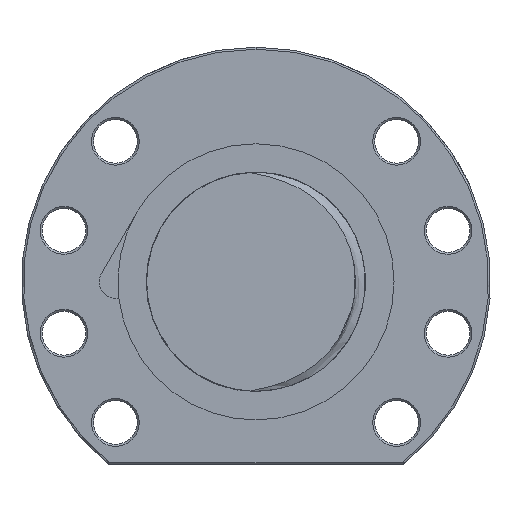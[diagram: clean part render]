
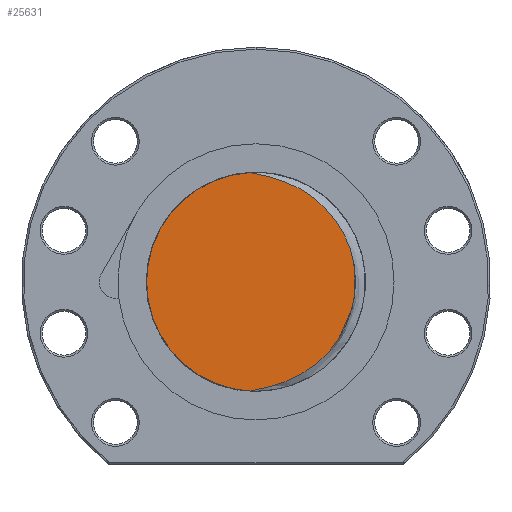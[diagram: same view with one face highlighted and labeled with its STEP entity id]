
A CAD part, left-side view. The second image highlights one B-rep face of the part: STEP entity #25631.
In plain terms, the highlighted planar face has unit normal (-1, 0, 0).
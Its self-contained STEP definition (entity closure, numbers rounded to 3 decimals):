
#5062 = DIRECTION ( 'NONE',  ( 0., 1., 0. ) ) ;
#5063 = DIRECTION ( 'NONE',  ( 1., 0., 0. ) ) ;
#5064 = CARTESIAN_POINT ( 'NONE',  ( -234., 0., 0. ) ) ;
#5065 = AXIS2_PLACEMENT_3D ( 'NONE', #5064, #5063, #5062 ) ;
#5066 = CIRCLE ( 'NONE', #5065, 27.5 ) ;
#5121 = CARTESIAN_POINT ( 'NONE',  ( -234., 1.501, -27.459 ) ) ;
#5133 = CARTESIAN_POINT ( 'NONE',  ( -234., 1.501, 27.459 ) ) ;
#24318 = VERTEX_POINT ( 'NONE', #5133 ) ;
#24331 = VERTEX_POINT ( 'NONE', #5121 ) ;
#24335 = EDGE_CURVE ( 'NONE', #24331, #24318, #5066, .T. ) ;
#25631 = ADVANCED_FACE ( 'NONE', ( #43360 ), #43355, .F. ) ;
#25633 = ORIENTED_EDGE ( 'NONE', *, *, #24335, .F. ) ;
#25635 = ORIENTED_EDGE ( 'NONE', *, *, #25637, .T. ) ;
#25637 = EDGE_CURVE ( 'NONE', #24331, #24318, #43348, .T. ) ;
#25688 = EDGE_LOOP ( 'NONE', ( #25633, #25635 ) ) ;
#43344 = CARTESIAN_POINT ( 'NONE',  ( -234., -0.212, -27.098 ) ) ;
#43345 = CARTESIAN_POINT ( 'NONE',  ( -234., 0.647, -27.269 ) ) ;
#43346 = CARTESIAN_POINT ( 'NONE',  ( -234., 1.077, -27.354 ) ) ;
#43347 = CARTESIAN_POINT ( 'NONE',  ( -234., 1.501, -27.459 ) ) ;
#43348 = B_SPLINE_CURVE_WITH_KNOTS ( 'NONE', 3,
 ( #43347, #43346, #43345, #43344, #43421, #43420, #43419, #43418, #43417, #43416, #43415, #43414, #43413, #43412, #43411, #43410, #43409, #43408, #43407, #43406, #43405, #43404, #43403, #43402, #43401, #43400, #43399, #43398, #43397, #43396, #43395, #43394, #43393, #43392, #43391, #43390, #43389, #43388, #43387, #43386, #43385, #43384, #43383, #43382, #43381, #43380, #43379, #43378, #43377, #43376, #43375, #43374, #43373, #43372, #43458, #43457, #43456, #43455, #43454, #43453, #43452, #43451 ),
 .UNSPECIFIED., .F., .F.,
 ( 4, 2, 2, 2, 2, 2, 2, 2, 2, 2, 2, 2, 2, 2, 2, 2, 2, 2, 2, 2, 2, 2, 2, 2, 2, 2, 2, 2, 2, 2, 4 ),
 ( 0.001, 0.002, 0.004, 0.006, 0.009, 0.012, 0.014, 0.017, 0.022, 0.025, 0.027, 0.03, 0.031, 0.032, 0.038, 0.04, 0.042, 0.043, 0.048, 0.051, 0.053, 0.059, 0.064, 0.066, 0.069, 0.072, 0.074, 0.079, 0.082, 0.083, 0.085 ),
 .UNSPECIFIED. ) ;
#43351 = DIRECTION ( 'NONE',  ( 0., 0., -1. ) ) ;
#43352 = DIRECTION ( 'NONE',  ( 1., 0., 0. ) ) ;
#43353 = CARTESIAN_POINT ( 'NONE',  ( -234., 0., 0. ) ) ;
#43354 = AXIS2_PLACEMENT_3D ( 'NONE', #43353, #43352, #43351 ) ;
#43355 = PLANE ( 'NONE',  #43354 ) ;
#43360 = FACE_OUTER_BOUND ( 'NONE', #25688, .T. ) ;
#43372 = CARTESIAN_POINT ( 'NONE',  ( -234., -6.983, 25.321 ) ) ;
#43373 = CARTESIAN_POINT ( 'NONE',  ( -234., -9.383, 24.261 ) ) ;
#43374 = CARTESIAN_POINT ( 'NONE',  ( -234., -10.172, 23.871 ) ) ;
#43375 = CARTESIAN_POINT ( 'NONE',  ( -234., -11.703, 23.026 ) ) ;
#43376 = CARTESIAN_POINT ( 'NONE',  ( -234., -12.447, 22.569 ) ) ;
#43377 = CARTESIAN_POINT ( 'NONE',  ( -234., -13.894, 21.587 ) ) ;
#43378 = CARTESIAN_POINT ( 'NONE',  ( -234., -14.598, 21.059 ) ) ;
#43379 = CARTESIAN_POINT ( 'NONE',  ( -234., -15.944, 19.948 ) ) ;
#43380 = CARTESIAN_POINT ( 'NONE',  ( -234., -16.587, 19.364 ) ) ;
#43381 = CARTESIAN_POINT ( 'NONE',  ( -234., -18.426, 17.527 ) ) ;
#43382 = CARTESIAN_POINT ( 'NONE',  ( -234., -19.532, 16.189 ) ) ;
#43383 = CARTESIAN_POINT ( 'NONE',  ( -234., -21.493, 13.275 ) ) ;
#43384 = CARTESIAN_POINT ( 'NONE',  ( -234., -22.316, 11.747 ) ) ;
#43385 = CARTESIAN_POINT ( 'NONE',  ( -234., -23.319, 9.349 ) ) ;
#43386 = CARTESIAN_POINT ( 'NONE',  ( -234., -23.614, 8.532 ) ) ;
#43387 = CARTESIAN_POINT ( 'NONE',  ( -234., -24.126, 6.863 ) ) ;
#43388 = CARTESIAN_POINT ( 'NONE',  ( -234., -24.342, 6.008 ) ) ;
#43389 = CARTESIAN_POINT ( 'NONE',  ( -234., -24.856, 3.447 ) ) ;
#43390 = CARTESIAN_POINT ( 'NONE',  ( -234., -25.026, 1.724 ) ) ;
#43391 = CARTESIAN_POINT ( 'NONE',  ( -234., -25.024, -0.449 ) ) ;
#43392 = CARTESIAN_POINT ( 'NONE',  ( -234., -25.013, -0.884 ) ) ;
#43393 = CARTESIAN_POINT ( 'NONE',  ( -234., -24.969, -1.757 ) ) ;
#43394 = CARTESIAN_POINT ( 'NONE',  ( -234., -24.936, -2.196 ) ) ;
#43395 = CARTESIAN_POINT ( 'NONE',  ( -234., -24.804, -3.502 ) ) ;
#43396 = CARTESIAN_POINT ( 'NONE',  ( -234., -24.674, -4.362 ) ) ;
#43397 = CARTESIAN_POINT ( 'NONE',  ( -234., -24.158, -6.91 ) ) ;
#43398 = CARTESIAN_POINT ( 'NONE',  ( -234., -23.648, -8.565 ) ) ;
#43399 = CARTESIAN_POINT ( 'NONE',  ( -234., -22.802, -10.581 ) ) ;
#43400 = CARTESIAN_POINT ( 'NONE',  ( -234., -22.622, -10.982 ) ) ;
#43401 = CARTESIAN_POINT ( 'NONE',  ( -234., -22.244, -11.771 ) ) ;
#43402 = CARTESIAN_POINT ( 'NONE',  ( -234., -22.046, -12.159 ) ) ;
#43403 = CARTESIAN_POINT ( 'NONE',  ( -234., -21.426, -13.306 ) ) ;
#43404 = CARTESIAN_POINT ( 'NONE',  ( -234., -20.976, -14.046 ) ) ;
#43405 = CARTESIAN_POINT ( 'NONE',  ( -234., -20.009, -15.478 ) ) ;
#43406 = CARTESIAN_POINT ( 'NONE',  ( -234., -19.49, -16.171 ) ) ;
#43407 = CARTESIAN_POINT ( 'NONE',  ( -234., -18.385, -17.509 ) ) ;
#43408 = CARTESIAN_POINT ( 'NONE',  ( -234., -17.797, -18.156 ) ) ;
#43409 = CARTESIAN_POINT ( 'NONE',  ( -234., -15.935, -20.013 ) ) ;
#43410 = CARTESIAN_POINT ( 'NONE',  ( -234., -14.59, -21.116 ) ) ;
#43411 = CARTESIAN_POINT ( 'NONE',  ( -234., -12.428, -22.581 ) ) ;
#43412 = CARTESIAN_POINT ( 'NONE',  ( -234., -11.681, -23.038 ) ) ;
#43413 = CARTESIAN_POINT ( 'NONE',  ( -234., -10.147, -23.884 ) ) ;
#43414 = CARTESIAN_POINT ( 'NONE',  ( -234., -9.365, -24.271 ) ) ;
#43415 = CARTESIAN_POINT ( 'NONE',  ( -234., -7.772, -24.973 ) ) ;
#43416 = CARTESIAN_POINT ( 'NONE',  ( -234., -6.961, -25.289 ) ) ;
#43417 = CARTESIAN_POINT ( 'NONE',  ( -234., -5.313, -25.858 ) ) ;
#43418 = CARTESIAN_POINT ( 'NONE',  ( -234., -4.475, -26.11 ) ) ;
#43419 = CARTESIAN_POINT ( 'NONE',  ( -234., -2.781, -26.556 ) ) ;
#43420 = CARTESIAN_POINT ( 'NONE',  ( -234., -1.927, -26.749 ) ) ;
#43421 = CARTESIAN_POINT ( 'NONE',  ( -234., -0.641, -27.014 ) ) ;
#43451 = CARTESIAN_POINT ( 'NONE',  ( -234., 1.501, 27.459 ) ) ;
#43452 = CARTESIAN_POINT ( 'NONE',  ( -234., 1.076, 27.353 ) ) ;
#43453 = CARTESIAN_POINT ( 'NONE',  ( -234., 0.646, 27.268 ) ) ;
#43454 = CARTESIAN_POINT ( 'NONE',  ( -234., -0.213, 27.097 ) ) ;
#43455 = CARTESIAN_POINT ( 'NONE',  ( -234., -0.643, 27.012 ) ) ;
#43456 = CARTESIAN_POINT ( 'NONE',  ( -234., -1.931, 26.748 ) ) ;
#43457 = CARTESIAN_POINT ( 'NONE',  ( -234., -2.786, 26.555 ) ) ;
#43458 = CARTESIAN_POINT ( 'NONE',  ( -234., -5.33, 25.885 ) ) ;
